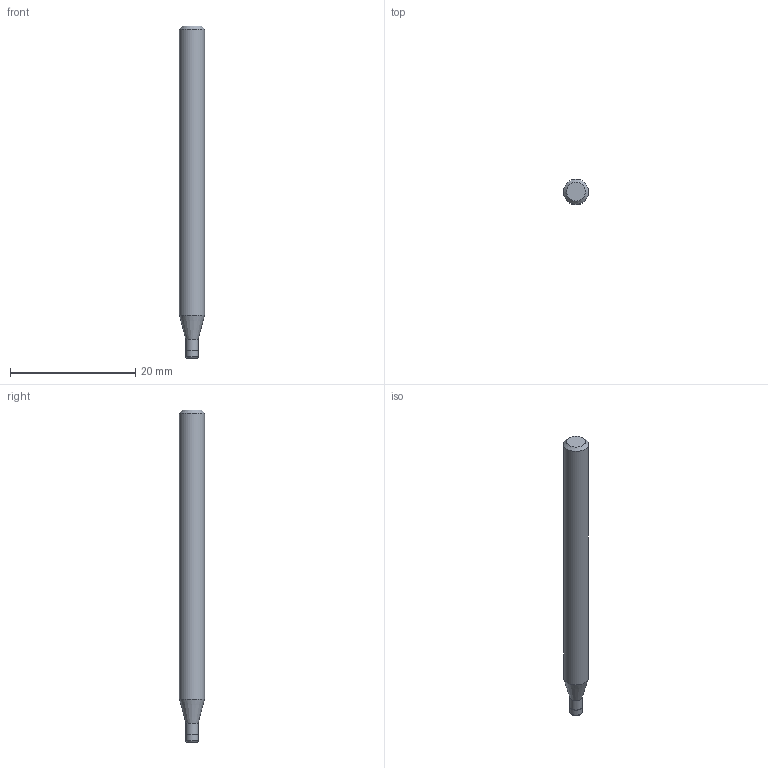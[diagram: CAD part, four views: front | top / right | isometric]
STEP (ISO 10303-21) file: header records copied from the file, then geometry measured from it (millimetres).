
FILE_DESCRIPTION((''),'2;1');
FILE_NAME('C:\Users\nsx150\AppData\Local\Temp\Mastercam 2021\LJSIDMOTM8\TEMP.step','2021-08-03T13:51:31',(''),(''),'STEP Write','Mastercam 2021 ... CNC Software, Inc.','');
FILE_SCHEMA(('AUTOMOTIVE_DESIGN'));
Length unit declared in the file: millimetre
Products named in the file (1): None
Bounding box: 4 x 4 x 53 mm (x, y, z)
Volume: 615.3 mm3; surface area: 652.9 mm2
Topology: 2 solids, 2 shells, 10 faces, 14 edges, 8 vertices
Faces by surface type: plane 4, cylinder 3, cone 2, torus 1
Full cylindrical faces by diameter (mm): 1.94 x1, 2 x1, 4 x1
Entity records: 232 total; most frequent: DIRECTION 40, CARTESIAN_POINT 28, AXIS2_PLACEMENT_3D 20, ORIENTED_EDGE 16, EDGE_LOOP 16, STYLED_ITEM 13, ADVANCED_FACE 10, FACE_BOUND 10
